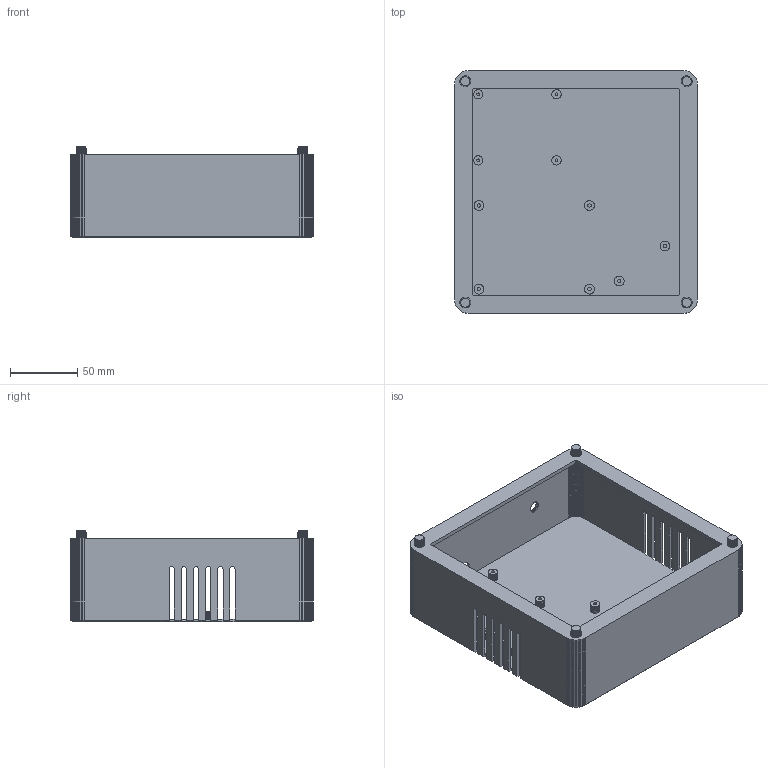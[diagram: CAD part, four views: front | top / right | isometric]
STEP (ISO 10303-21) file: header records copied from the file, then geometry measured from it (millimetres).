
FILE_DESCRIPTION(('Open CASCADE Model'),'2;1');
FILE_NAME('Open CASCADE Shape Model','2026-08-07T13:51:12',('Author'),( 'Open CASCADE'),'Open CASCADE STEP processor 7.9','Open CASCADE 7.9' ,'Unknown');
FILE_SCHEMA(('AUTOMOTIVE_DESIGN { 1 0 10303 214 1 1 1 1 }'));
Products named in the file (1): 電子艙底座
Bounding box: 180 x 180 x 68 mm (x, y, z)
Volume: 182740.1 mm3; surface area: 163786.4 mm2
Topology: 1 solids, 1 shells, 1707 faces, 4585 edges, 2890 vertices
Faces by surface type: plane 1707
Entity records: 111230 total; most frequent: CARTESIAN_POINT 18353, DIRECTION 17171, LINE 13755, VECTOR 13755, ORIENTED_EDGE 9170, PCURVE 9170, DEFINITIONAL_REPRESENTATION 9170, EDGE_CURVE 4585
